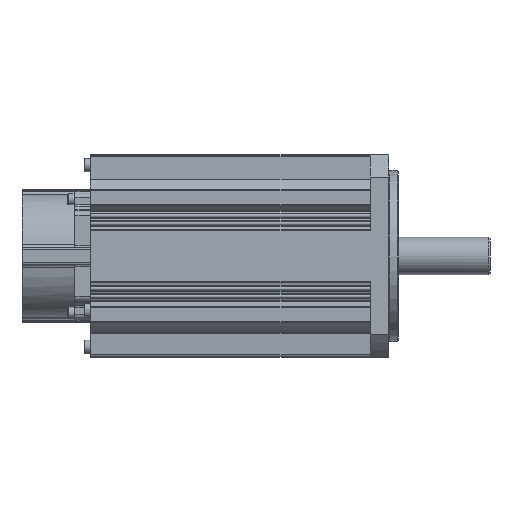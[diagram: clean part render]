
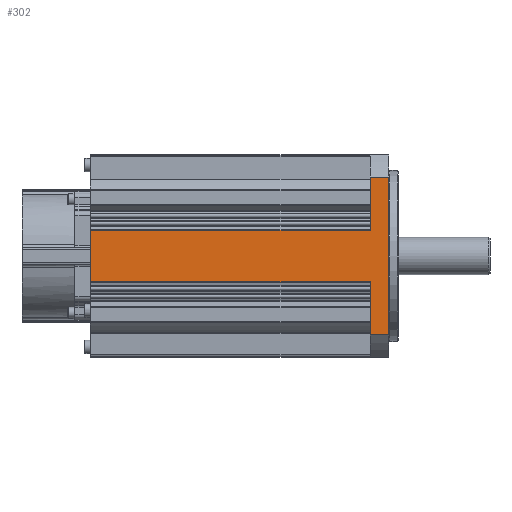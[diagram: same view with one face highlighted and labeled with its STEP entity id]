
A CAD part, front view. The second image highlights one B-rep face of the part: STEP entity #302.
In plain terms, the highlighted planar face has unit normal (0, -1, 0).
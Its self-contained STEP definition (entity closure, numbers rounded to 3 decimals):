
#302 = ADVANCED_FACE( '', ( #1115 ), #1116, .T. );
#1115 = FACE_OUTER_BOUND( '', #2334, .T. );
#1116 = PLANE( '', #2335 );
#2334 = EDGE_LOOP( '', ( #5112, #5113, #5114, #5115, #5116, #5117, #5118, #5119 ) );
#2335 = AXIS2_PLACEMENT_3D( '', #5120, #5121, #5122 );
#5112 = ORIENTED_EDGE( '', *, *, #7926, .F. );
#5113 = ORIENTED_EDGE( '', *, *, #8177, .T. );
#5114 = ORIENTED_EDGE( '', *, *, #8139, .F. );
#5115 = ORIENTED_EDGE( '', *, *, #8178, .F. );
#5116 = ORIENTED_EDGE( '', *, *, #7590, .F. );
#5117 = ORIENTED_EDGE( '', *, *, #7598, .T. );
#5118 = ORIENTED_EDGE( '', *, *, #8128, .T. );
#5119 = ORIENTED_EDGE( '', *, *, #7596, .F. );
#5120 = CARTESIAN_POINT( '', ( -192., -65., 50.806 ) );
#5121 = DIRECTION( '', ( 0., -1., 0. ) );
#5122 = DIRECTION( '', ( 0., 0., -1. ) );
#7590 = EDGE_CURVE( '', #9104, #9106, #9107, .T. );
#7596 = EDGE_CURVE( '', #9116, #9111, #9118, .T. );
#7598 = EDGE_CURVE( '', #9104, #9120, #9122, .T. );
#7926 = EDGE_CURVE( '', #9676, #9116, #9677, .T. );
#8128 = EDGE_CURVE( '', #9120, #9111, #10008, .T. );
#8139 = EDGE_CURVE( '', #10027, #10029, #10030, .T. );
#8177 = EDGE_CURVE( '', #9676, #10029, #10102, .T. );
#8178 = EDGE_CURVE( '', #9106, #10027, #10103, .T. );
#9104 = VERTEX_POINT( '', #11753 );
#9106 = VERTEX_POINT( '', #11755 );
#9107 = LINE( '', #11756, #11757 );
#9111 = VERTEX_POINT( '', #11761 );
#9116 = VERTEX_POINT( '', #11767 );
#9118 = LINE( '', #11769, #11770 );
#9120 = VERTEX_POINT( '', #11772 );
#9122 = LINE( '', #11774, #11775 );
#9676 = VERTEX_POINT( '', #12513 );
#9677 = LINE( '', #12514, #12515 );
#10008 = LINE( '', #12971, #12972 );
#10027 = VERTEX_POINT( '', #12992 );
#10029 = VERTEX_POINT( '', #12994 );
#10030 = LINE( '', #12995, #12996 );
#10102 = LINE( '', #13095, #13096 );
#10103 = LINE( '', #13097, #13098 );
#11753 = CARTESIAN_POINT( '', ( -12., -65., 16.424 ) );
#11755 = CARTESIAN_POINT( '', ( -12., -65., 50.806 ) );
#11756 = CARTESIAN_POINT( '', ( -12., -65., 50.806 ) );
#11757 = VECTOR( '', #14738, 1000. );
#11761 = CARTESIAN_POINT( '', ( -192., -65., -16.424 ) );
#11767 = CARTESIAN_POINT( '', ( -12., -65., -16.424 ) );
#11769 = CARTESIAN_POINT( '', ( -12., -65., -16.424 ) );
#11770 = VECTOR( '', #14752, 1000. );
#11772 = CARTESIAN_POINT( '', ( -192., -65., 16.424 ) );
#11774 = CARTESIAN_POINT( '', ( -12., -65., 16.424 ) );
#11775 = VECTOR( '', #14756, 1000. );
#12513 = CARTESIAN_POINT( '', ( -12., -65., -50.806 ) );
#12514 = CARTESIAN_POINT( '', ( -12., -65., 50.806 ) );
#12515 = VECTOR( '', #15370, 1000. );
#12971 = CARTESIAN_POINT( '', ( -192., -65., 50.806 ) );
#12972 = VECTOR( '', #15724, 1000. );
#12992 = CARTESIAN_POINT( '', ( 0., -65., 50.806 ) );
#12994 = CARTESIAN_POINT( '', ( 0., -65., -50.806 ) );
#12995 = CARTESIAN_POINT( '', ( 0., -65., 50.806 ) );
#12996 = VECTOR( '', #15753, 1000. );
#13095 = CARTESIAN_POINT( '', ( -192., -65., -50.806 ) );
#13096 = VECTOR( '', #15811, 1000. );
#13097 = CARTESIAN_POINT( '', ( -192., -65., 50.806 ) );
#13098 = VECTOR( '', #15812, 1000. );
#14738 = DIRECTION( '', ( 0., 0., 1. ) );
#14752 = DIRECTION( '', ( -1., 0., 0. ) );
#14756 = DIRECTION( '', ( -1., 0., 0. ) );
#15370 = DIRECTION( '', ( 0., 0., 1. ) );
#15724 = DIRECTION( '', ( 0., 0., -1. ) );
#15753 = DIRECTION( '', ( 0., 0., -1. ) );
#15811 = DIRECTION( '', ( 1., 0., 0. ) );
#15812 = DIRECTION( '', ( 1., 0., 0. ) );
